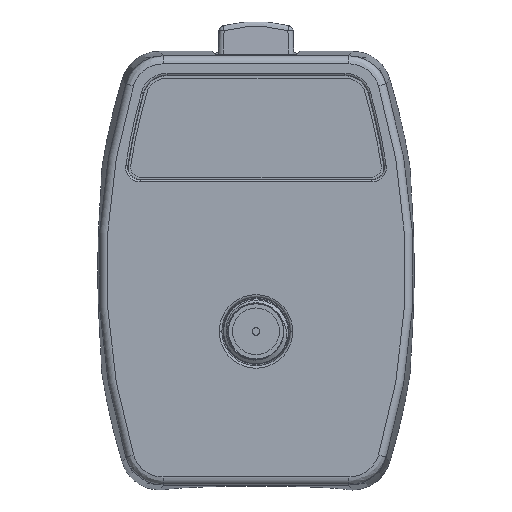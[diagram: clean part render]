
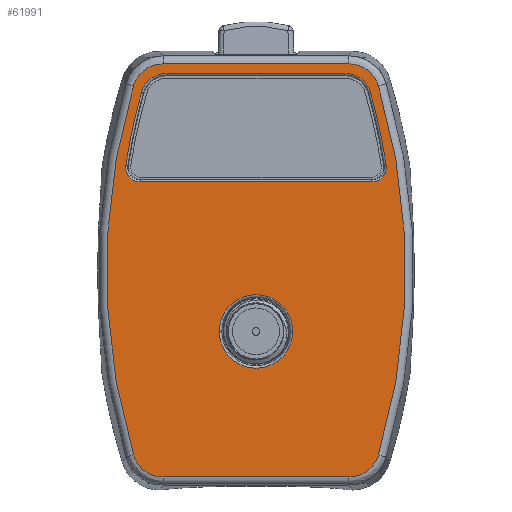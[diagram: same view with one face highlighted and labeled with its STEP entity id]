
A CAD part, top view. The second image highlights one B-rep face of the part: STEP entity #61991.
In plain terms, the highlighted planar face has unit normal (0, 0, 1).
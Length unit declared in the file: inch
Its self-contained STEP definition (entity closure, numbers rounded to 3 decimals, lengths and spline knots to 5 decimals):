
#59094=CARTESIAN_POINT('',(1.9778,0.01755,0.383));
#59095=DIRECTION('',(0.,0.,-1.));
#59096=DIRECTION('',(-0.988,0.155,0.));
#59097=AXIS2_PLACEMENT_3D('',#59094,#59095,#59096);
#59119=CARTESIAN_POINT('',(-0.34271,0.657,0.383));
#59120=DIRECTION('',(0.,0.,-1.));
#59121=DIRECTION('',(-0.964,0.266,0.));
#59122=AXIS2_PLACEMENT_3D('',#59119,#59120,#59121);
#59124=DIRECTION('',(1.,0.,0.));
#59125=VECTOR('',#59124,0.68542);
#59126=CARTESIAN_POINT('',(-0.34271,0.75936,0.383));
#59127=LINE('',#59126,#59125);
#59147=CARTESIAN_POINT('',(0.34271,0.657,0.383));
#59148=DIRECTION('',(0.,0.,-1.));
#59149=DIRECTION('',(0.,1.,0.));
#59150=AXIS2_PLACEMENT_3D('',#59147,#59148,#59149);
#59152=CARTESIAN_POINT('',(-1.9778,0.01755,0.383));
#59153=DIRECTION('',(0.,0.,-1.));
#59154=DIRECTION('',(0.964,0.266,0.));
#59155=AXIS2_PLACEMENT_3D('',#59152,#59153,#59154);
#59177=CARTESIAN_POINT('',(0.44568,0.397,0.383));
#59178=DIRECTION('',(0.,0.,-1.));
#59179=DIRECTION('',(0.988,0.155,0.));
#59180=AXIS2_PLACEMENT_3D('',#59177,#59178,#59179);
#59182=DIRECTION('',(-1.,0.,0.));
#59183=VECTOR('',#59182,0.89135);
#59184=CARTESIAN_POINT('',(0.44568,0.34064,0.383));
#59185=LINE('',#59184,#59183);
#59205=CARTESIAN_POINT('',(-0.44568,0.397,0.383));
#59206=DIRECTION('',(0.,0.,-1.));
#59207=DIRECTION('',(0.,-1.,0.));
#59208=AXIS2_PLACEMENT_3D('',#59205,#59206,#59207);
#59280=CARTESIAN_POINT('',(-1.90966,0.,0.383));
#59281=DIRECTION('',(0.,0.,1.));
#59282=DIRECTION('',(0.958,-0.286,0.));
#59283=AXIS2_PLACEMENT_3D('',#59280,#59281,#59282);
#59295=CARTESIAN_POINT('',(0.47173,0.71066,
0.383));
#59296=CARTESIAN_POINT('',(0.46964,0.71766,
0.383));
#59297=CARTESIAN_POINT('',(0.46427,0.73105,
0.383));
#59298=CARTESIAN_POINT('',(0.45257,0.74956,
0.383));
#59299=CARTESIAN_POINT('',(0.43773,0.76557,0.383));
#59300=CARTESIAN_POINT('',(0.42022,0.77862,0.383));
#59301=CARTESIAN_POINT('',(0.40063,0.78827,0.383));
#59302=CARTESIAN_POINT('',(0.37955,0.79419,
0.383));
#59303=CARTESIAN_POINT('',(0.36518,0.79551,
0.383));
#59304=CARTESIAN_POINT('',(0.35786,0.79551,
0.383));
#59322=DIRECTION('',(-1.,0.,0.));
#59323=VECTOR('',#59322,0.71572);
#59324=CARTESIAN_POINT('',(0.35786,0.79551,
0.383));
#59325=LINE('',#59324,#59323);
#59335=CARTESIAN_POINT('',(-0.35786,0.79551,
0.383));
#59336=CARTESIAN_POINT('',(-0.36517,0.79551,
0.383));
#59337=CARTESIAN_POINT('',(-0.37953,0.79419,
0.383));
#59338=CARTESIAN_POINT('',(-0.40062,0.78827,
0.383));
#59339=CARTESIAN_POINT('',(-0.42021,0.77863,0.383));
#59340=CARTESIAN_POINT('',(-0.43772,0.76558,0.383));
#59341=CARTESIAN_POINT('',(-0.45256,0.74957,0.383));
#59342=CARTESIAN_POINT('',(-0.46426,0.73106,
0.383));
#59343=CARTESIAN_POINT('',(-0.46964,0.71767,
0.383));
#59344=CARTESIAN_POINT('',(-0.47173,0.71066,
0.383));
#59362=CARTESIAN_POINT('',(1.90966,0.,0.383));
#59363=DIRECTION('',(0.,0.,1.));
#59364=DIRECTION('',(-0.958,0.286,0.));
#59365=AXIS2_PLACEMENT_3D('',#59362,#59363,#59364);
#59377=CARTESIAN_POINT('',(-0.47173,-0.71066,
0.383));
#59378=CARTESIAN_POINT('',(-0.46964,-0.71766,
0.383));
#59379=CARTESIAN_POINT('',(-0.46427,-0.73105,
0.383));
#59380=CARTESIAN_POINT('',(-0.45257,-0.74956,
0.383));
#59381=CARTESIAN_POINT('',(-0.43773,-0.76557,0.383));
#59382=CARTESIAN_POINT('',(-0.42022,-0.77862,0.383));
#59383=CARTESIAN_POINT('',(-0.40063,-0.78827,0.383));
#59384=CARTESIAN_POINT('',(-0.37955,-0.79419,
0.383));
#59385=CARTESIAN_POINT('',(-0.36518,-0.79551,
0.383));
#59386=CARTESIAN_POINT('',(-0.35786,-0.79551,
0.383));
#59404=DIRECTION('',(1.,0.,0.));
#59405=VECTOR('',#59404,0.71572);
#59406=CARTESIAN_POINT('',(-0.35786,-0.79551,
0.383));
#59407=LINE('',#59406,#59405);
#59417=CARTESIAN_POINT('',(0.35786,-0.79551,
0.383));
#59418=CARTESIAN_POINT('',(0.36517,-0.79551,
0.383));
#59419=CARTESIAN_POINT('',(0.37953,-0.79419,
0.383));
#59420=CARTESIAN_POINT('',(0.40062,-0.78827,
0.383));
#59421=CARTESIAN_POINT('',(0.42021,-0.77863,0.383));
#59422=CARTESIAN_POINT('',(0.43772,-0.76558,0.383));
#59423=CARTESIAN_POINT('',(0.45256,-0.74957,0.383));
#59424=CARTESIAN_POINT('',(0.46426,-0.73106,
0.383));
#59425=CARTESIAN_POINT('',(0.46964,-0.71767,
0.383));
#59426=CARTESIAN_POINT('',(0.47173,-0.71066,
0.383));
#60570=CARTESIAN_POINT('',(0.,-0.235,0.383));
#60571=DIRECTION('',(0.,0.,-1.));
#60572=DIRECTION('',(-1.,0.,0.));
#60573=AXIS2_PLACEMENT_3D('',#60570,#60571,#60572);
#60585=CARTESIAN_POINT('',(0.,-0.235,0.383));
#60586=DIRECTION('',(0.,0.,-1.));
#60587=DIRECTION('',(1.,0.,0.));
#60588=AXIS2_PLACEMENT_3D('',#60585,#60586,#60587);
#61538=CARTESIAN_POINT('',(-0.50136,0.40572,0.383));
#61539=CARTESIAN_POINT('',(-0.44139,0.68419,0.383));
#61540=VERTEX_POINT('',#61538);
#61541=VERTEX_POINT('',#61539);
#61546=CARTESIAN_POINT('',(-0.34271,0.75936,0.383));
#61547=CARTESIAN_POINT('',(0.34271,0.75936,0.383));
#61548=VERTEX_POINT('',#61546);
#61549=VERTEX_POINT('',#61547);
#61554=CARTESIAN_POINT('',(0.44139,0.68419,0.383));
#61555=CARTESIAN_POINT('',(0.50136,0.40572,0.383));
#61556=VERTEX_POINT('',#61554);
#61557=VERTEX_POINT('',#61555);
#61562=CARTESIAN_POINT('',(0.44568,0.34064,0.383));
#61563=CARTESIAN_POINT('',(-0.44568,0.34064,0.383));
#61564=VERTEX_POINT('',#61562);
#61565=VERTEX_POINT('',#61563);
#61610=CARTESIAN_POINT('',(0.47173,-0.71066,0.383));
#61611=CARTESIAN_POINT('',(0.47173,0.71066,0.383));
#61612=VERTEX_POINT('',#61610);
#61613=VERTEX_POINT('',#61611);
#61618=VERTEX_POINT('',#59304);
#61620=CARTESIAN_POINT('',(-0.35786,0.79551,
0.383));
#61621=VERTEX_POINT('',#61620);
#61624=VERTEX_POINT('',#59344);
#61626=CARTESIAN_POINT('',(-0.47173,-0.71066,0.383));
#61627=VERTEX_POINT('',#61626);
#61630=VERTEX_POINT('',#59386);
#61632=CARTESIAN_POINT('',(0.35786,-0.79551,
0.383));
#61633=VERTEX_POINT('',#61632);
#61736=CARTESIAN_POINT('',(-0.14154,-0.235,0.383));
#61737=CARTESIAN_POINT('',(0.14154,-0.235,0.383));
#61738=VERTEX_POINT('',#61736);
#61739=VERTEX_POINT('',#61737);
#61944=CARTESIAN_POINT('',(0.,0.,0.383));
#61945=DIRECTION('',(0.,0.,1.));
#61946=DIRECTION('',(1.,0.,0.));
#61947=AXIS2_PLACEMENT_3D('',#61944,#61945,#61946);
#61948=PLANE('',#61947);
#61950=ORIENTED_EDGE('',*,*,#61949,.F.);
#61952=ORIENTED_EDGE('',*,*,#61951,.F.);
#61954=ORIENTED_EDGE('',*,*,#61953,.F.);
#61956=ORIENTED_EDGE('',*,*,#61955,.F.);
#61958=ORIENTED_EDGE('',*,*,#61957,.F.);
#61960=ORIENTED_EDGE('',*,*,#61959,.F.);
#61962=ORIENTED_EDGE('',*,*,#61961,.F.);
#61964=ORIENTED_EDGE('',*,*,#61963,.F.);
#61965=EDGE_LOOP('',(#61950,#61952,#61954,#61956,#61958,#61960,#61962,#61964));
#61966=FACE_OUTER_BOUND('',#61965,.F.);
#61968=ORIENTED_EDGE('',*,*,#61967,.F.);
#61970=ORIENTED_EDGE('',*,*,#61969,.F.);
#61972=ORIENTED_EDGE('',*,*,#61971,.F.);
#61974=ORIENTED_EDGE('',*,*,#61973,.F.);
#61976=ORIENTED_EDGE('',*,*,#61975,.F.);
#61978=ORIENTED_EDGE('',*,*,#61977,.F.);
#61980=ORIENTED_EDGE('',*,*,#61979,.F.);
#61982=ORIENTED_EDGE('',*,*,#61981,.F.);
#61983=EDGE_LOOP('',(#61968,#61970,#61972,#61974,#61976,#61978,#61980,#61982));
#61984=FACE_BOUND('',#61983,.F.);
#61986=ORIENTED_EDGE('',*,*,#61985,.F.);
#61988=ORIENTED_EDGE('',*,*,#61987,.F.);
#61989=EDGE_LOOP('',(#61986,#61988));
#61990=FACE_BOUND('',#61989,.F.);
#61991=ADVANCED_FACE('',(#61966,#61984,#61990),#61948,.T.);
#59098=CIRCLE('',#59097,2.50936);
#59123=CIRCLE('',#59122,0.10236);
#59151=CIRCLE('',#59150,0.10236);
#59156=CIRCLE('',#59155,2.50936);
#59181=CIRCLE('',#59180,0.05636);
#59209=CIRCLE('',#59208,0.05636);
#59284=CIRCLE('',#59283,2.48517);
#59305=B_SPLINE_CURVE_WITH_KNOTS('',3,(#59295,#59296,#59297,#59298,#59299,
#59300,#59301,#59302,#59303,#59304),.UNSPECIFIED.,.F.,.F.,(4,1,1,1,1,1,1,4),(
0.,0.14286,0.28571,0.42857,0.57143,
0.71429,0.85714,1.),.UNSPECIFIED.);
#59345=B_SPLINE_CURVE_WITH_KNOTS('',3,(#59335,#59336,#59337,#59338,#59339,
#59340,#59341,#59342,#59343,#59344),.UNSPECIFIED.,.F.,.F.,(4,1,1,1,1,1,1,4),(
0.,0.14286,0.28571,0.42857,0.57143,
0.71429,0.85714,1.),.UNSPECIFIED.);
#59366=CIRCLE('',#59365,2.48517);
#59387=B_SPLINE_CURVE_WITH_KNOTS('',3,(#59377,#59378,#59379,#59380,#59381,
#59382,#59383,#59384,#59385,#59386),.UNSPECIFIED.,.F.,.F.,(4,1,1,1,1,1,1,4),(
0.,0.14286,0.28571,0.42857,0.57143,
0.71429,0.85714,1.),.UNSPECIFIED.);
#59427=B_SPLINE_CURVE_WITH_KNOTS('',3,(#59417,#59418,#59419,#59420,#59421,
#59422,#59423,#59424,#59425,#59426),.UNSPECIFIED.,.F.,.F.,(4,1,1,1,1,1,1,4),(
0.,0.14286,0.28571,0.42857,0.57143,
0.71429,0.85714,1.),.UNSPECIFIED.);
#60574=CIRCLE('',#60573,0.14154);
#60589=CIRCLE('',#60588,0.14154);
#61949=EDGE_CURVE('',#61612,#61613,#59284,.T.);
#61951=EDGE_CURVE('',#61633,#61612,#59427,.T.);
#61953=EDGE_CURVE('',#61630,#61633,#59407,.T.);
#61955=EDGE_CURVE('',#61627,#61630,#59387,.T.);
#61957=EDGE_CURVE('',#61624,#61627,#59366,.T.);
#61959=EDGE_CURVE('',#61621,#61624,#59345,.T.);
#61961=EDGE_CURVE('',#61618,#61621,#59325,.T.);
#61963=EDGE_CURVE('',#61613,#61618,#59305,.T.);
#61967=EDGE_CURVE('',#61540,#61541,#59098,.T.);
#61969=EDGE_CURVE('',#61565,#61540,#59209,.T.);
#61971=EDGE_CURVE('',#61564,#61565,#59185,.T.);
#61973=EDGE_CURVE('',#61557,#61564,#59181,.T.);
#61975=EDGE_CURVE('',#61556,#61557,#59156,.T.);
#61977=EDGE_CURVE('',#61549,#61556,#59151,.T.);
#61979=EDGE_CURVE('',#61548,#61549,#59127,.T.);
#61981=EDGE_CURVE('',#61541,#61548,#59123,.T.);
#61985=EDGE_CURVE('',#61738,#61739,#60574,.T.);
#61987=EDGE_CURVE('',#61739,#61738,#60589,.T.);
